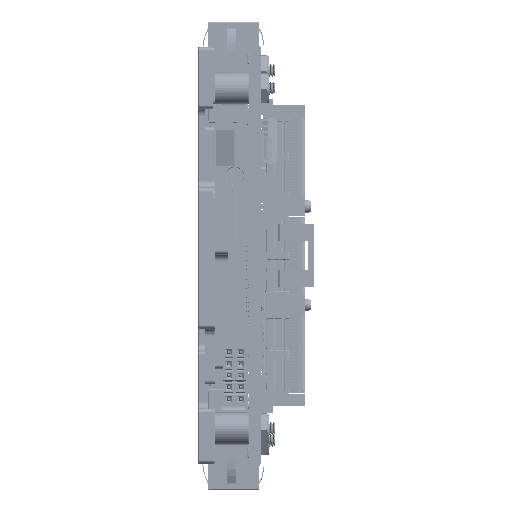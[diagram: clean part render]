
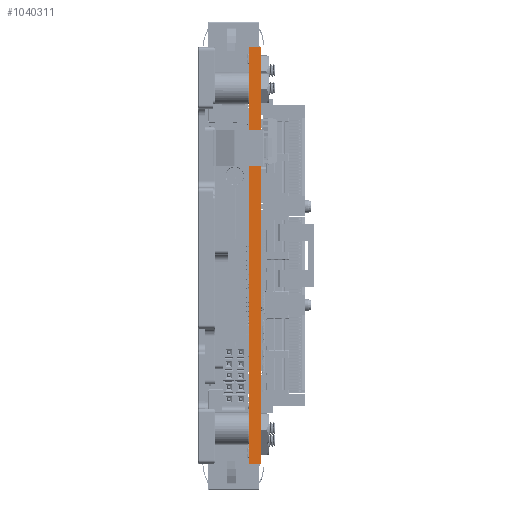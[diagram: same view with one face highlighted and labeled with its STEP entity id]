
A CAD part, left-side view. The second image highlights one B-rep face of the part: STEP entity #1040311.
In plain terms, the highlighted planar face has unit normal (-1, 0, 0) as drawn and (0, 1, 0) by its records, which use the part's own axes.
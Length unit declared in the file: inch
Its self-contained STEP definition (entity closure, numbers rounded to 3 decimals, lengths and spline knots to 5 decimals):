
#21140 = LINE ( 'NONE', #471477, #397207 ) ;
#28973 = VERTEX_POINT ( 'NONE', #38552 ) ;
#38552 = CARTESIAN_POINT ( 'NONE',  ( 0., 3.775, -0.103 ) ) ;
#40969 = EDGE_CURVE ( 'NONE', #28973, #678903, #641800, .T. ) ;
#45057 = DIRECTION ( 'NONE',  ( 0., -1., 0. ) ) ;
#54734 = EDGE_LOOP ( 'NONE', ( #929990, #458638, #316018, #701325 ) ) ;
#105523 = EDGE_CURVE ( 'NONE', #28973, #470581, #660731, .T. ) ;
#237731 = CARTESIAN_POINT ( 'NONE',  ( 3.55, 3.775, 0. ) ) ;
#238487 = VECTOR ( 'NONE', #587368, 39.37008 ) ;
#270182 = VERTEX_POINT ( 'NONE', #237731 ) ;
#316018 = ORIENTED_EDGE ( 'NONE', *, *, #692716, .F. ) ;
#331540 = CARTESIAN_POINT ( 'NONE',  ( 0., 3.775, -0.103 ) ) ;
#348421 = CARTESIAN_POINT ( 'NONE',  ( 0., 3.775, 0. ) ) ;
#397207 = VECTOR ( 'NONE', #874771, 39.37008 ) ;
#412117 = DIRECTION ( 'NONE',  ( 0., 0., 1. ) ) ;
#447410 = VECTOR ( 'NONE', #412117, 39.37008 ) ;
#458638 = ORIENTED_EDGE ( 'NONE', *, *, #688032, .F. ) ;
#470581 = VERTEX_POINT ( 'NONE', #348421 ) ;
#471477 = CARTESIAN_POINT ( 'NONE',  ( 0., 3.775, 0. ) ) ;
#479006 = AXIS2_PLACEMENT_3D ( 'NONE', #525231, #45057, #605892 ) ;
#502188 = LINE ( 'NONE', #506764, #238487 ) ;
#506764 = CARTESIAN_POINT ( 'NONE',  ( 3.55, 3.775, -0.103 ) ) ;
#519392 = FACE_OUTER_BOUND ( 'NONE', #54734, .T. ) ;
#525231 = CARTESIAN_POINT ( 'NONE',  ( 3.55, 3.775, -0.103 ) ) ;
#587368 = DIRECTION ( 'NONE',  ( 0., 0., 1. ) ) ;
#605892 = DIRECTION ( 'NONE',  ( 0., 0., -1. ) ) ;
#641800 = LINE ( 'NONE', #660865, #830075 ) ;
#660731 = LINE ( 'NONE', #331540, #447410 ) ;
#660865 = CARTESIAN_POINT ( 'NONE',  ( 0., 3.775, -0.103 ) ) ;
#678903 = VERTEX_POINT ( 'NONE', #1022844 ) ;
#688032 = EDGE_CURVE ( 'NONE', #270182, #470581, #21140, .T. ) ;
#692716 = EDGE_CURVE ( 'NONE', #678903, #270182, #502188, .T. ) ;
#701325 = ORIENTED_EDGE ( 'NONE', *, *, #40969, .F. ) ;
#830075 = VECTOR ( 'NONE', #906233, 39.37008 ) ;
#874771 = DIRECTION ( 'NONE',  ( -1., 0., 0. ) ) ;
#906233 = DIRECTION ( 'NONE',  ( 1., 0., 0. ) ) ;
#929990 = ORIENTED_EDGE ( 'NONE', *, *, #105523, .T. ) ;
#998616 = PLANE ( 'NONE',  #479006 ) ;
#1022844 = CARTESIAN_POINT ( 'NONE',  ( 3.55, 3.775, -0.103 ) ) ;
#1040311 = ADVANCED_FACE ( 'NONE', ( #519392 ), #998616, .F. ) ;
